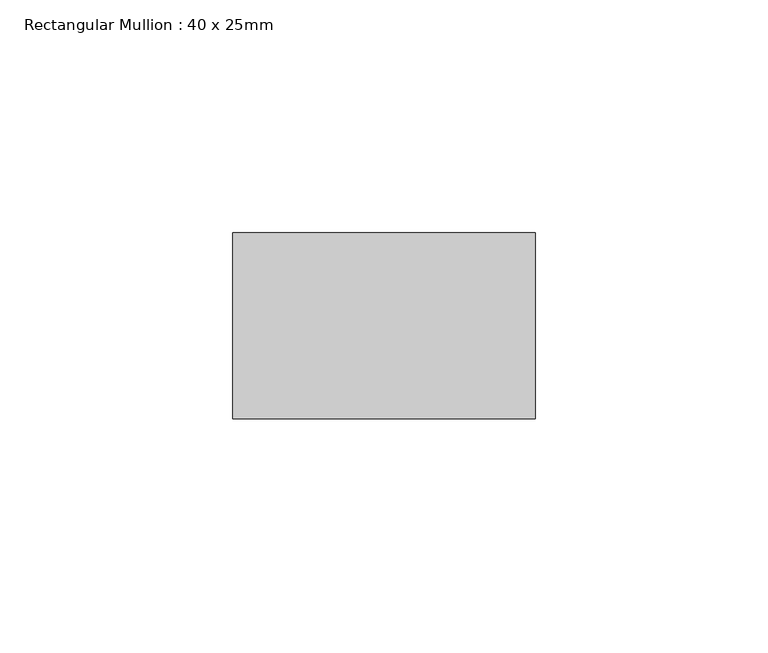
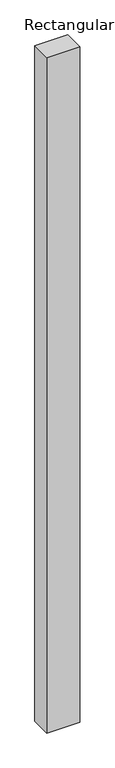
"""IFC4 building model written with IfcOpenShell, lengths in millimetres: member geometry, Rectangular Mullion : 40 x 25mm."""

import ifcopenshell
import ifcopenshell.guid

model = None  # the IFC model being written
_history = None  # IfcOwnerHistory: only IFC2X3 demands one
_inside = {}  # id of a spatial element -> (the spatial element, [elements in it])
_under = {}  # id of a project, library or spatial element -> (it, [spatial elements below it])
_declared = {}  # id of a project -> (the project, [libraries it declares])
_typed = {}  # id of a type object -> (the type object, [elements of that type])
_made_of = {}  # id of a material, layer set ... -> (it, [elements and type objects made of it])


def new_model(schema):
    """Start an empty IFC model of exactly this schema.

    Asked for "IFC4X3", IfcOpenShell would pick the latest addendum, in which some entities
    have other attributes; the version numbers below select the first issue.
    IFC2X3 requires an IfcOwnerHistory on every rooted entity: one is made here for all.
    """
    global model, _history
    if schema == "IFC4X3":
        model = ifcopenshell.file(schema_version=(4, 3, 0, 0))
    else:
        model = ifcopenshell.file(schema=schema)
    _inside.clear()
    _under.clear()
    _declared.clear()
    _typed.clear()
    _made_of.clear()
    _history = None
    if model.schema == "IFC2X3":
        org = make("IfcOrganization", Name="unknown")
        user = make(
            "IfcPersonAndOrganization",
            ThePerson=make("IfcPerson", FamilyName="unknown"),
            TheOrganization=org,
        )
        app = make(
            "IfcApplication",
            ApplicationDeveloper=org,
            Version="unknown",
            ApplicationFullName="unknown",
            ApplicationIdentifier="unknown",
        )
        _history = make(
            "IfcOwnerHistory",
            OwningUser=user,
            OwningApplication=app,
            ChangeAction="ADDED",
            CreationDate=0,
        )
    return model


def make(cls, **values):
    """One entity of the class cls with the attributes given. An attribute that is None is left unset."""
    return model.create_entity(
        cls, **{name: value for name, value in values.items() if value is not None}
    )


def rooted(cls, **values):
    """An entity with a GlobalId (a new one), such as an element, a storey or a relation."""
    return make(cls, GlobalId=ifcopenshell.guid.new(), OwnerHistory=_history, **values)


def si_unit(unit_type, name, prefix=None):
    """IfcSIUnit, for example si_unit("LENGTHUNIT", "METRE", prefix="MILLI")."""
    return make("IfcSIUnit", UnitType=unit_type, Prefix=prefix, Name=name)


def assignment(units):
    """IfcUnitAssignment: the units of a project."""
    return None if units is None else make("IfcUnitAssignment", Units=units)


def point(xyz):
    """IfcCartesianPoint."""
    return None if xyz is None else make("IfcCartesianPoint", Coordinates=xyz)


def direction(xyz):
    """IfcDirection."""
    return None if xyz is None else make("IfcDirection", DirectionRatios=xyz)


def frame(location, z_axis=None, x_axis=None):
    """IfcAxis2Placement3D, a coordinate frame: its origin and axes. An axis left out is left unset."""
    return make(
        "IfcAxis2Placement3D",
        Location=point(location),
        Axis=direction(z_axis),
        RefDirection=direction(x_axis),
    )


def origin():
    """The frame at (0, 0, 0) with its axes left unset."""
    return frame((0.0, 0.0, 0.0))


def place(relative_to, where):
    """IfcLocalPlacement: puts the frame where relative to a parent placement (None: the world)."""
    return make(
        "IfcLocalPlacement", PlacementRelTo=relative_to, RelativePlacement=where
    )


def context(
    kind, dimensions, precision=None, world=None, true_north=None, identifier=None
):
    """IfcGeometricRepresentationContext, for example the 3D "Model" context."""
    return make(
        "IfcGeometricRepresentationContext",
        ContextIdentifier=identifier,
        ContextType=kind,
        CoordinateSpaceDimension=dimensions,
        Precision=precision,
        WorldCoordinateSystem=world,
        TrueNorth=true_north,
    )


def project(units=None, contexts=None):
    """IfcProject with its units and contexts."""
    return rooted(
        "IfcProject",
        Name="project",
        RepresentationContexts=contexts,
        UnitsInContext=assignment(units),
    )


def spatial(cls, under=None, at=None, **own):
    """A site, building, storey or space (cls), placed at a placement, below another one or the project."""
    s = rooted(cls, ObjectPlacement=at, **own)
    if under is not None:
        _under.setdefault(under.id(), (under, []))[1].append(s)
    return s


def polyline(points):
    """IfcPolyline through the points."""
    return make("IfcPolyline", Points=[point(p) for p in points])


def outline(outer, holes=None, kind="AREA"):
    """IfcArbitraryClosedProfileDef: a profile drawn as a closed curve; with holes, ...WithVoids."""
    if holes is None:
        return make("IfcArbitraryClosedProfileDef", ProfileType=kind, OuterCurve=outer)
    return make(
        "IfcArbitraryProfileDefWithVoids",
        ProfileType=kind,
        OuterCurve=outer,
        InnerCurves=holes,
    )


def extrude(swept, where, along, depth):
    """IfcExtrudedAreaSolid: the profile swept, set in the frame where, extruded along a direction by depth."""
    return make(
        "IfcExtrudedAreaSolid",
        SweptArea=swept,
        Position=where,
        ExtrudedDirection=direction(along),
        Depth=depth,
    )


def shape(context_of_items, identifier, shape_type, items):
    """IfcShapeRepresentation: the items that make up one representation, for example the "Body"."""
    return make(
        "IfcShapeRepresentation",
        ContextOfItems=context_of_items,
        RepresentationIdentifier=identifier,
        RepresentationType=shape_type,
        Items=items,
    )


def source(mapping_origin, context_of_items, identifier, shape_type, items):
    """IfcRepresentationMap: a shape defined once, which mapped items show again and again."""
    return make(
        "IfcRepresentationMap",
        MappingOrigin=mapping_origin,
        MappedRepresentation=shape(context_of_items, identifier, shape_type, items),
    )


def transform(
    local_origin,
    x_axis=None,
    y_axis=None,
    z_axis=None,
    scale=None,
    scale2=None,
    scale3=None,
    uniform=True,
):
    """IfcCartesianTransformationOperator3D, or its non-uniform kind. x_axis, y_axis, z_axis: its Axis1, 2, 3."""
    if uniform:
        return make(
            "IfcCartesianTransformationOperator3D",
            Axis1=direction(x_axis),
            Axis2=direction(y_axis),
            LocalOrigin=point(local_origin),
            Scale=scale,
            Axis3=direction(z_axis),
        )
    return make(
        "IfcCartesianTransformationOperator3DnonUniform",
        Axis1=direction(x_axis),
        Axis2=direction(y_axis),
        LocalOrigin=point(local_origin),
        Scale=scale,
        Axis3=direction(z_axis),
        Scale2=scale2,
        Scale3=scale3,
    )


def mapped(mapping_source, mapping_target):
    """IfcMappedItem: shows the shape of a source again, moved by a transform."""
    return make(
        "IfcMappedItem", MappingSource=mapping_source, MappingTarget=mapping_target
    )


def made_of(thing, what):
    """Note that an element or type object is made of a material, layer set ...; save() writes the relation."""
    if what is not None:
        _made_of.setdefault(what.id(), (what, []))[1].append(thing)
    return thing


def element(
    cls,
    number,
    at=None,
    inside=None,
    cuts=None,
    type_object=None,
    material=None,
    context=None,
    identifier="Body",
    shape_type=None,
    held_by="IfcProductDefinitionShape",
    body=None,
    shapes=None,
    **own,
):
    """One element of the class cls, such as IfcWall. Its Tag is "e" and its number.

    at: its placement. inside: the storey or other place that contains it. cuts: it is an
    opening in that element (IfcRelVoidsElement). A single representation is given by context,
    identifier, shape_type and body (its items); several are given by shapes. held_by: the class
    of the entity that holds the representations. save() writes the other relations.
    """
    e = rooted(cls, Tag="e%d" % number, ObjectPlacement=at, **own)
    if body is not None:
        shapes = [shape(context, identifier, shape_type, body)]
    if shapes is not None:
        e.Representation = make(held_by, Representations=shapes)
    if inside is not None:
        _inside.setdefault(inside.id(), (inside, []))[1].append(e)
    if cuts is not None:
        rooted(
            "IfcRelVoidsElement", RelatingBuildingElement=cuts, RelatedOpeningElement=e
        )
    if type_object is not None:
        _typed.setdefault(type_object.id(), (type_object, []))[1].append(e)
    return made_of(e, material)


def aggregate(whole, parts):
    """IfcRelAggregates: a whole, such as a stair, and the parts it consists of."""
    return rooted("IfcRelAggregates", RelatingObject=whole, RelatedObjects=parts)


def save(model, path):
    """Write the relations noted so far, then the file.

    IfcRelAggregates (storeys below a building ...), IfcRelContainedInSpatialStructure (elements
    in a storey), IfcRelDefinesByType, IfcRelAssociatesMaterial and IfcRelDeclares: one each for
    every whole, place, type object, material and project.
    """
    for whole, parts in _under.values():
        aggregate(whole, parts)
    for where, things in _inside.values():
        rooted(
            "IfcRelContainedInSpatialStructure",
            RelatedElements=things,
            RelatingStructure=where,
        )
    for kind, things in _typed.values():
        rooted("IfcRelDefinesByType", RelatedObjects=things, RelatingType=kind)
    for what, things in _made_of.values():
        rooted("IfcRelAssociatesMaterial", RelatedObjects=things, RelatingMaterial=what)
    for by, libraries in _declared.values():
        rooted("IfcRelDeclares", RelatingContext=by, RelatedDefinitions=libraries)
    model.write(path)


def rectangular_mullion_40_x_25mm_e4b95ece(model_context):
    return source(origin(), model_context, "Body", "SweptSolid", [
        extrude(outline(polyline([(40.0, -20.0), (40.0, -60.0), (-25.0, -60.0), (-25.0, -20.0), (40.0, -20.0)])), frame((0.0, 0.0, -1405.6998246), z_axis=(0.0, 0.0, 1.0), x_axis=(1.0, 0.0, 0.0)), (0.0, 0.0, 1.0), 1405.6998246),
    ])


if __name__ == "__main__":
    model = new_model("IFC4")
    model_context = context("Model", 3, world=origin())
    ifc_project = project(units=[si_unit("LENGTHUNIT", "METRE", prefix="MILLI")], contexts=[model_context])
    site = spatial("IfcSite", under=ifc_project)
    building = spatial("IfcBuilding", under=site)
    placement = place(None, origin())
    rectangular_mullion_40_x_25mm_shape = rectangular_mullion_40_x_25mm_e4b95ece(model_context)
    element("IfcMember", 1, ObjectType="Rectangular Mullion : 40 x 25mm", at=placement, inside=building, context=model_context, shape_type="MappedRepresentation", body=[
        mapped(rectangular_mullion_40_x_25mm_shape, transform((0.0, 0.0, 0.0), x_axis=(1.0, 0.0, 0.0), y_axis=(0.0, 1.0, 0.0), z_axis=(0.0, 0.0, 1.0))),
    ])
    save(model, "model.ifc")
